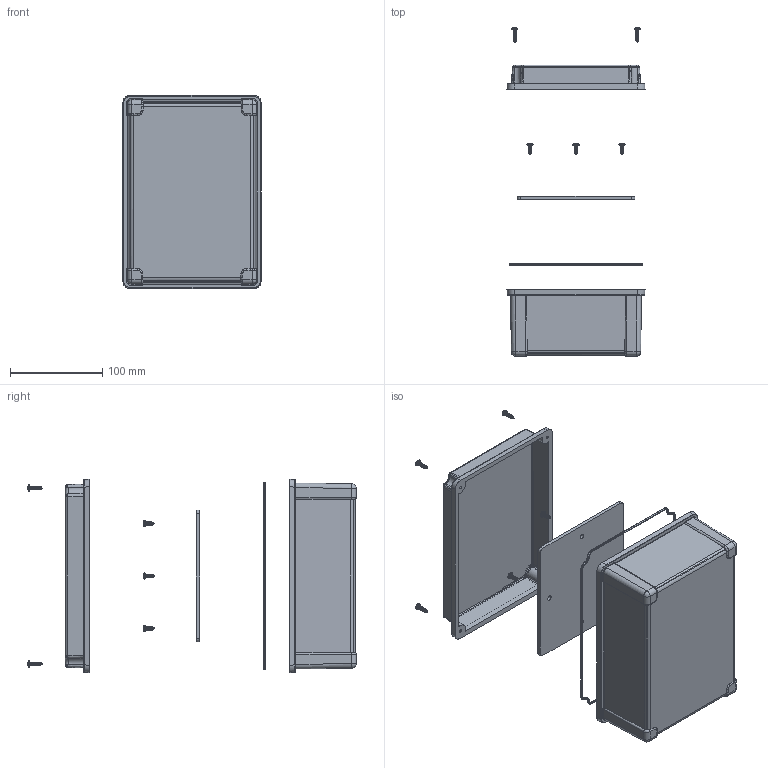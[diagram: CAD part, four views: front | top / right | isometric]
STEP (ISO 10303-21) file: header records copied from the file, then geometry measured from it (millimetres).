
FILE_DESCRIPTION((''),'2;1');
FILE_NAME('BOX200X140X90','2022-09-13T11:11:40',('pc'),(''),'CREO PARAMETRIC BY PTC INC, 2018100','CREO PARAMETRIC BY PTC INC, 2018100','');
FILE_SCHEMA(('CONFIG_CONTROL_DESIGN'));
Length unit declared in the file: millimetre
Products named in the file (7): BOX200X140X90-BOX; BOX200X140X90-JUNTA; BOX200X140X90-PLACA; PARKER-6X0_5; BOX200X140X90-TAPA; PARKER-6X0_625; BOX200X140X90
Assembly tree (12 placements, depth 2):
  BOX200X140X90
    BOX200X140X90-BOX
    BOX200X140X90-JUNTA
    BOX200X140X90-PLACA
    PARKER-6X0_5  x4
    BOX200X140X90-TAPA
    PARKER-6X0_625  x4
Bounding box: 150 x 356.54 x 210 mm (x, y, z)
Volume: 333903.5 mm3; surface area: 293638.1 mm2
Topology: 12 solids, 12 shells, 918 faces, 2336 edges, 1424 vertices
Faces by surface type: cylinder 300, plane 202, bspline 179, torus 121, cone 80, sphere 36
Entity records: 27487 total; most frequent: CARTESIAN_POINT 14308, ORIENTED_EDGE 2812, DIRECTION 2672, EDGE_CURVE 1406, AXIS2_PLACEMENT_3D 1110, VERTEX_POINT 863, CIRCLE 616, EDGE_LOOP 611
